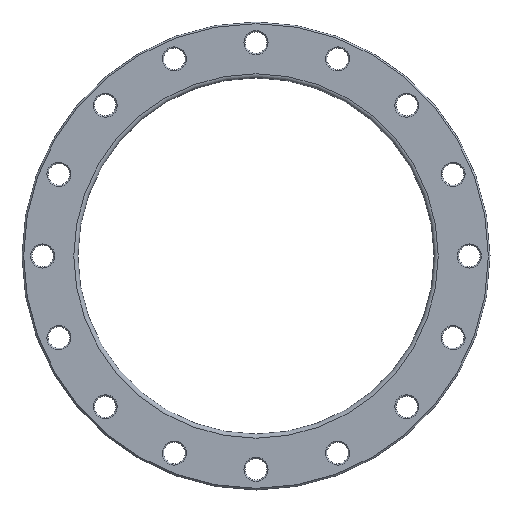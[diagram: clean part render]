
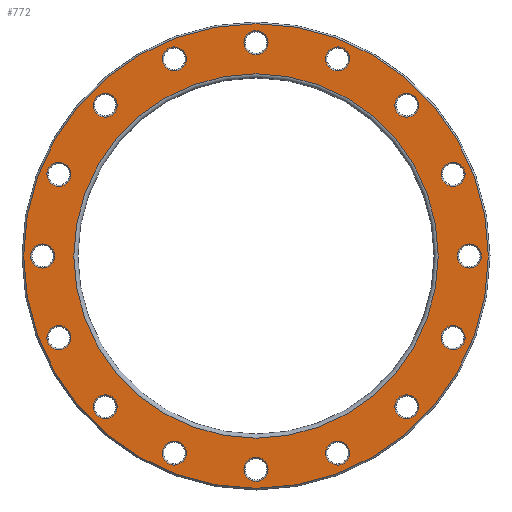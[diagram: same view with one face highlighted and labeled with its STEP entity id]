
A CAD part, front view. The second image highlights one B-rep face of the part: STEP entity #772.
In plain terms, the highlighted planar face has unit normal (0, -1, 0).
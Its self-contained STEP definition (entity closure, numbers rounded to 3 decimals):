
#23=PLANE('',#908);
#170=ORIENTED_EDGE('',*,*,#269,.T.);
#171=ORIENTED_EDGE('',*,*,#270,.T.);
#172=ORIENTED_EDGE('',*,*,#204,.T.);
#173=ORIENTED_EDGE('',*,*,#208,.T.);
#174=ORIENTED_EDGE('',*,*,#212,.T.);
#175=ORIENTED_EDGE('',*,*,#216,.T.);
#176=ORIENTED_EDGE('',*,*,#220,.T.);
#177=ORIENTED_EDGE('',*,*,#224,.T.);
#178=ORIENTED_EDGE('',*,*,#228,.T.);
#179=ORIENTED_EDGE('',*,*,#232,.T.);
#180=ORIENTED_EDGE('',*,*,#236,.T.);
#181=ORIENTED_EDGE('',*,*,#240,.T.);
#182=ORIENTED_EDGE('',*,*,#244,.T.);
#183=ORIENTED_EDGE('',*,*,#248,.T.);
#184=ORIENTED_EDGE('',*,*,#252,.T.);
#185=ORIENTED_EDGE('',*,*,#256,.T.);
#186=ORIENTED_EDGE('',*,*,#260,.T.);
#187=ORIENTED_EDGE('',*,*,#271,.T.);
#204=EDGE_CURVE('',#276,#276,#348,.T.);
#208=EDGE_CURVE('',#280,#280,#352,.T.);
#212=EDGE_CURVE('',#284,#284,#356,.T.);
#216=EDGE_CURVE('',#288,#288,#360,.T.);
#220=EDGE_CURVE('',#292,#292,#364,.T.);
#224=EDGE_CURVE('',#296,#296,#368,.T.);
#228=EDGE_CURVE('',#300,#300,#372,.T.);
#232=EDGE_CURVE('',#304,#304,#376,.T.);
#236=EDGE_CURVE('',#308,#308,#380,.T.);
#240=EDGE_CURVE('',#312,#312,#384,.T.);
#244=EDGE_CURVE('',#316,#316,#388,.T.);
#248=EDGE_CURVE('',#320,#320,#392,.T.);
#252=EDGE_CURVE('',#324,#324,#396,.T.);
#256=EDGE_CURVE('',#328,#328,#400,.T.);
#260=EDGE_CURVE('',#332,#332,#404,.T.);
#269=EDGE_CURVE('',#341,#341,#413,.F.);
#270=EDGE_CURVE('',#342,#342,#414,.T.);
#271=EDGE_CURVE('',#343,#343,#415,.T.);
#276=VERTEX_POINT('',#1187);
#280=VERTEX_POINT('',#1198);
#284=VERTEX_POINT('',#1209);
#288=VERTEX_POINT('',#1220);
#292=VERTEX_POINT('',#1231);
#296=VERTEX_POINT('',#1242);
#300=VERTEX_POINT('',#1253);
#304=VERTEX_POINT('',#1264);
#308=VERTEX_POINT('',#1275);
#312=VERTEX_POINT('',#1286);
#316=VERTEX_POINT('',#1297);
#320=VERTEX_POINT('',#1308);
#324=VERTEX_POINT('',#1319);
#328=VERTEX_POINT('',#1330);
#332=VERTEX_POINT('',#1341);
#341=VERTEX_POINT('',#1364);
#342=VERTEX_POINT('',#1366);
#343=VERTEX_POINT('',#1368);
#348=CIRCLE('',#797,14.5);
#352=CIRCLE('',#804,14.5);
#356=CIRCLE('',#811,14.5);
#360=CIRCLE('',#818,14.5);
#364=CIRCLE('',#825,14.5);
#368=CIRCLE('',#832,14.5);
#372=CIRCLE('',#839,14.5);
#376=CIRCLE('',#846,14.5);
#380=CIRCLE('',#853,14.5);
#384=CIRCLE('',#860,14.5);
#388=CIRCLE('',#867,14.5);
#392=CIRCLE('',#874,14.5);
#396=CIRCLE('',#881,14.5);
#400=CIRCLE('',#888,14.5);
#404=CIRCLE('',#895,14.5);
#413=CIRCLE('',#909,280.5);
#414=CIRCLE('',#910,220.);
#415=CIRCLE('',#911,14.5);
#530=EDGE_LOOP('',(#170));
#531=EDGE_LOOP('',(#171));
#532=EDGE_LOOP('',(#172));
#533=EDGE_LOOP('',(#173));
#534=EDGE_LOOP('',(#174));
#535=EDGE_LOOP('',(#175));
#536=EDGE_LOOP('',(#176));
#537=EDGE_LOOP('',(#177));
#538=EDGE_LOOP('',(#178));
#539=EDGE_LOOP('',(#179));
#540=EDGE_LOOP('',(#180));
#541=EDGE_LOOP('',(#181));
#542=EDGE_LOOP('',(#182));
#543=EDGE_LOOP('',(#183));
#544=EDGE_LOOP('',(#184));
#545=EDGE_LOOP('',(#185));
#546=EDGE_LOOP('',(#186));
#547=EDGE_LOOP('',(#187));
#674=FACE_BOUND('',#530,.T.);
#675=FACE_BOUND('',#531,.T.);
#676=FACE_BOUND('',#532,.T.);
#677=FACE_BOUND('',#533,.T.);
#678=FACE_BOUND('',#534,.T.);
#679=FACE_BOUND('',#535,.T.);
#680=FACE_BOUND('',#536,.T.);
#681=FACE_BOUND('',#537,.T.);
#682=FACE_BOUND('',#538,.T.);
#683=FACE_BOUND('',#539,.T.);
#684=FACE_BOUND('',#540,.T.);
#685=FACE_BOUND('',#541,.T.);
#686=FACE_BOUND('',#542,.T.);
#687=FACE_BOUND('',#543,.T.);
#688=FACE_BOUND('',#544,.T.);
#689=FACE_BOUND('',#545,.T.);
#690=FACE_BOUND('',#546,.T.);
#691=FACE_BOUND('',#547,.T.);
#772=ADVANCED_FACE('',(#674,#675,#676,#677,#678,#679,#680,#681,#682,#683,
#684,#685,#686,#687,#688,#689,#690,#691),#23,.F.);
#797=AXIS2_PLACEMENT_3D('',#1186,#931,#932);
#804=AXIS2_PLACEMENT_3D('',#1197,#945,#946);
#811=AXIS2_PLACEMENT_3D('',#1208,#959,#960);
#818=AXIS2_PLACEMENT_3D('',#1219,#973,#974);
#825=AXIS2_PLACEMENT_3D('',#1230,#987,#988);
#832=AXIS2_PLACEMENT_3D('',#1241,#1001,#1002);
#839=AXIS2_PLACEMENT_3D('',#1252,#1015,#1016);
#846=AXIS2_PLACEMENT_3D('',#1263,#1029,#1030);
#853=AXIS2_PLACEMENT_3D('',#1274,#1043,#1044);
#860=AXIS2_PLACEMENT_3D('',#1285,#1057,#1058);
#867=AXIS2_PLACEMENT_3D('',#1296,#1071,#1072);
#874=AXIS2_PLACEMENT_3D('',#1307,#1085,#1086);
#881=AXIS2_PLACEMENT_3D('',#1318,#1099,#1100);
#888=AXIS2_PLACEMENT_3D('',#1329,#1113,#1114);
#895=AXIS2_PLACEMENT_3D('',#1340,#1127,#1128);
#908=AXIS2_PLACEMENT_3D('',#1362,#1153,#1154);
#909=AXIS2_PLACEMENT_3D('',#1363,#1155,#1156);
#910=AXIS2_PLACEMENT_3D('',#1365,#1157,#1158);
#911=AXIS2_PLACEMENT_3D('',#1367,#1159,#1160);
#931=DIRECTION('',(0.,1.,0.));
#932=DIRECTION('',(0.924,0.,0.383));
#945=DIRECTION('',(0.,1.,0.));
#946=DIRECTION('',(0.707,0.,0.707));
#959=DIRECTION('',(0.,1.,0.));
#960=DIRECTION('',(0.383,0.,0.924));
#973=DIRECTION('',(0.,1.,0.));
#974=DIRECTION('',(0.,0.,1.));
#987=DIRECTION('',(0.,1.,0.));
#988=DIRECTION('',(-0.383,0.,0.924));
#1001=DIRECTION('',(0.,1.,0.));
#1002=DIRECTION('',(-0.707,0.,0.707));
#1015=DIRECTION('',(0.,1.,0.));
#1016=DIRECTION('',(-0.924,0.,0.383));
#1029=DIRECTION('',(0.,1.,0.));
#1030=DIRECTION('',(-1.,0.,0.));
#1043=DIRECTION('',(0.,1.,0.));
#1044=DIRECTION('',(-0.924,0.,-0.383));
#1057=DIRECTION('',(0.,1.,0.));
#1058=DIRECTION('',(-0.707,0.,-0.707));
#1071=DIRECTION('',(0.,1.,0.));
#1072=DIRECTION('',(-0.383,0.,-0.924));
#1085=DIRECTION('',(0.,1.,0.));
#1086=DIRECTION('',(0.,0.,-1.));
#1099=DIRECTION('',(0.,1.,0.));
#1100=DIRECTION('',(0.383,0.,-0.924));
#1113=DIRECTION('',(0.,1.,0.));
#1114=DIRECTION('',(0.707,0.,-0.707));
#1127=DIRECTION('',(0.,1.,0.));
#1128=DIRECTION('',(0.924,0.,-0.383));
#1153=DIRECTION('',(0.,1.,0.));
#1154=DIRECTION('',(0.,0.,1.));
#1155=DIRECTION('',(0.,1.,0.));
#1156=DIRECTION('',(0.,0.,1.));
#1157=DIRECTION('',(0.,1.,0.));
#1158=DIRECTION('',(0.,0.,1.));
#1159=DIRECTION('',(0.,1.,0.));
#1160=DIRECTION('',(1.,0.,0.));
#1186=CARTESIAN_POINT('',(-98.541,0.,237.899));
#1187=CARTESIAN_POINT('',(-85.145,0.,243.448));
#1197=CARTESIAN_POINT('',(-182.08,0.,182.08));
#1198=CARTESIAN_POINT('',(-171.827,0.,192.333));
#1208=CARTESIAN_POINT('',(-237.899,0.,98.541));
#1209=CARTESIAN_POINT('',(-232.35,0.,111.937));
#1219=CARTESIAN_POINT('',(-257.5,0.,0.));
#1220=CARTESIAN_POINT('',(-257.5,0.,14.5));
#1230=CARTESIAN_POINT('',(-237.899,0.,-98.541));
#1231=CARTESIAN_POINT('',(-243.448,0.,-85.145));
#1241=CARTESIAN_POINT('',(-182.08,0.,-182.08));
#1242=CARTESIAN_POINT('',(-192.333,0.,-171.827));
#1252=CARTESIAN_POINT('',(-98.541,0.,-237.899));
#1253=CARTESIAN_POINT('',(-111.937,0.,-232.35));
#1263=CARTESIAN_POINT('',(0.,0.,-257.5));
#1264=CARTESIAN_POINT('',(-14.5,0.,-257.5));
#1274=CARTESIAN_POINT('',(98.541,0.,-237.899));
#1275=CARTESIAN_POINT('',(85.145,0.,-243.448));
#1285=CARTESIAN_POINT('',(182.08,0.,-182.08));
#1286=CARTESIAN_POINT('',(171.827,0.,-192.333));
#1296=CARTESIAN_POINT('',(237.899,0.,-98.541));
#1297=CARTESIAN_POINT('',(232.35,0.,-111.937));
#1307=CARTESIAN_POINT('',(257.5,0.,0.));
#1308=CARTESIAN_POINT('',(257.5,0.,-14.5));
#1318=CARTESIAN_POINT('',(237.899,0.,98.541));
#1319=CARTESIAN_POINT('',(243.448,0.,85.145));
#1329=CARTESIAN_POINT('',(182.08,0.,182.08));
#1330=CARTESIAN_POINT('',(192.333,0.,171.827));
#1340=CARTESIAN_POINT('',(98.541,0.,237.899));
#1341=CARTESIAN_POINT('',(111.937,0.,232.35));
#1362=CARTESIAN_POINT('',(0.,0.,0.));
#1363=CARTESIAN_POINT('',(0.,0.,0.));
#1364=CARTESIAN_POINT('',(0.,0.,280.5));
#1365=CARTESIAN_POINT('',(0.,0.,0.));
#1366=CARTESIAN_POINT('',(0.,0.,220.));
#1367=CARTESIAN_POINT('',(0.,0.,257.5));
#1368=CARTESIAN_POINT('',(14.5,0.,257.5));
